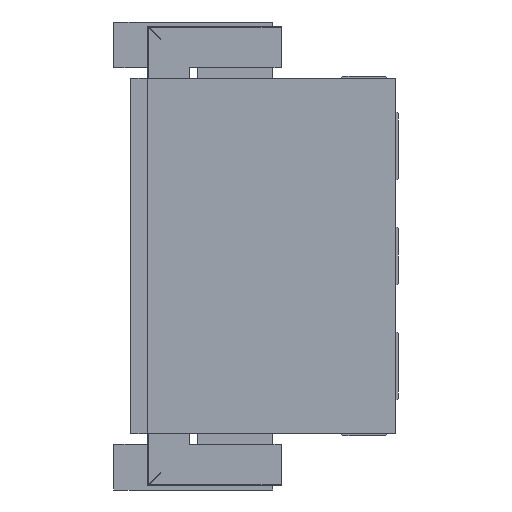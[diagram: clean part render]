
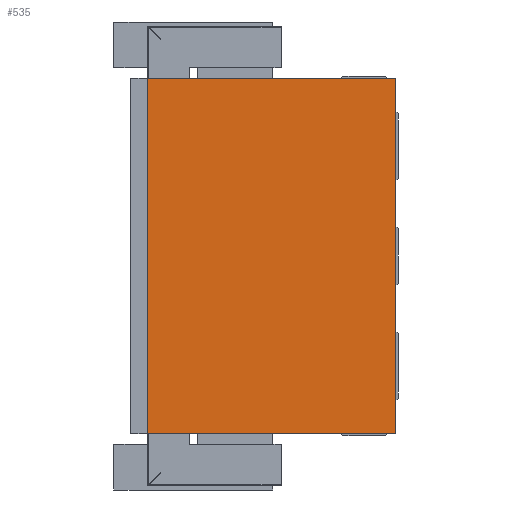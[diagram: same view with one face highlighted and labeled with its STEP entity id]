
A CAD part, left-side view. The second image highlights one B-rep face of the part: STEP entity #535.
In plain terms, the highlighted planar face has unit normal (-1, 0, 0).
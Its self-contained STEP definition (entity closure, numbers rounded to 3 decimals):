
#535 = ADVANCED_FACE( '', ( #3760 ), #3761, .F. );
#3760 = FACE_OUTER_BOUND( '', #9849, .T. );
#3761 = PLANE( '', #9850 );
#9849 = EDGE_LOOP( '', ( #17158, #17159, #17160, #17161 ) );
#9850 = AXIS2_PLACEMENT_3D( '', #17162, #17163, #17164 );
#17158 = ORIENTED_EDGE( '', *, *, #41487, .F. );
#17159 = ORIENTED_EDGE( '', *, *, #41496, .F. );
#17160 = ORIENTED_EDGE( '', *, *, #41493, .F. );
#17161 = ORIENTED_EDGE( '', *, *, #41491, .F. );
#17162 = CARTESIAN_POINT( '', ( -13., 0., 0. ) );
#17163 = DIRECTION( '', ( 1., 0., 0. ) );
#17164 = DIRECTION( '', ( 0., 0., -1. ) );
#41487 = EDGE_CURVE( '', #50202, #50203, #50204, .T. );
#41491 = EDGE_CURVE( '', #50203, #50208, #50209, .T. );
#41493 = EDGE_CURVE( '', #50208, #50211, #50212, .T. );
#41496 = EDGE_CURVE( '', #50211, #50202, #50215, .T. );
#50202 = VERTEX_POINT( '', #64268 );
#50203 = VERTEX_POINT( '', #64269 );
#50204 = LINE( '', #64270, #64271 );
#50208 = VERTEX_POINT( '', #64278 );
#50209 = LINE( '', #64279, #64280 );
#50211 = VERTEX_POINT( '', #64283 );
#50212 = LINE( '', #64284, #64285 );
#50215 = LINE( '', #64290, #64291 );
#64268 = CARTESIAN_POINT( '', ( -13., -31.5, -42.5 ) );
#64269 = CARTESIAN_POINT( '', ( -13., 28., -42.5 ) );
#64270 = CARTESIAN_POINT( '', ( -13., -31.5, -42.5 ) );
#64271 = VECTOR( '', #85020, 1. );
#64278 = CARTESIAN_POINT( '', ( -13., 28., 42.5 ) );
#64279 = CARTESIAN_POINT( '', ( -13., 28., -42.5 ) );
#64280 = VECTOR( '', #85024, 1. );
#64283 = CARTESIAN_POINT( '', ( -13., -31.5, 42.5 ) );
#64284 = CARTESIAN_POINT( '', ( -13., 28., 42.5 ) );
#64285 = VECTOR( '', #85026, 1. );
#64290 = CARTESIAN_POINT( '', ( -13., -31.5, 42.5 ) );
#64291 = VECTOR( '', #85029, 1. );
#85020 = DIRECTION( '', ( 0., 1., 0. ) );
#85024 = DIRECTION( '', ( 0., 0., 1. ) );
#85026 = DIRECTION( '', ( 0., -1., 0. ) );
#85029 = DIRECTION( '', ( 0., 0., -1. ) );
